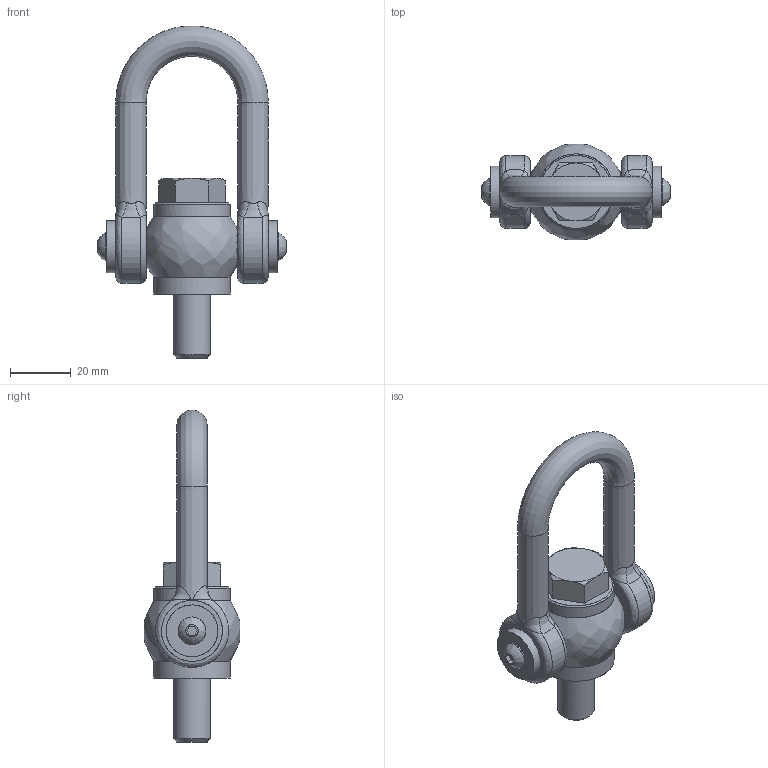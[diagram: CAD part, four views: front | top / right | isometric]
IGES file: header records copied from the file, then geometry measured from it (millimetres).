
Global section: file name: E:\UnigraphicsGraphicData\MISUMI_MOLD-PARTS\NX\3d_sleb12_00877_r00.igs; native system: NX V5.0; preprocessor: UGS NX IGES V5.0; author: MISUMI; date: 20101115.183346; units: millimetre
Bounding box: 61.8 x 31.46 x 108.98 mm (x, y, z)
Surface area: 15289.5 mm2 (no closed solid volume)
Topology: 0 solids, 0 shells, 81 faces, 581 edges, 552 vertices
Faces by surface type: bspline 81
